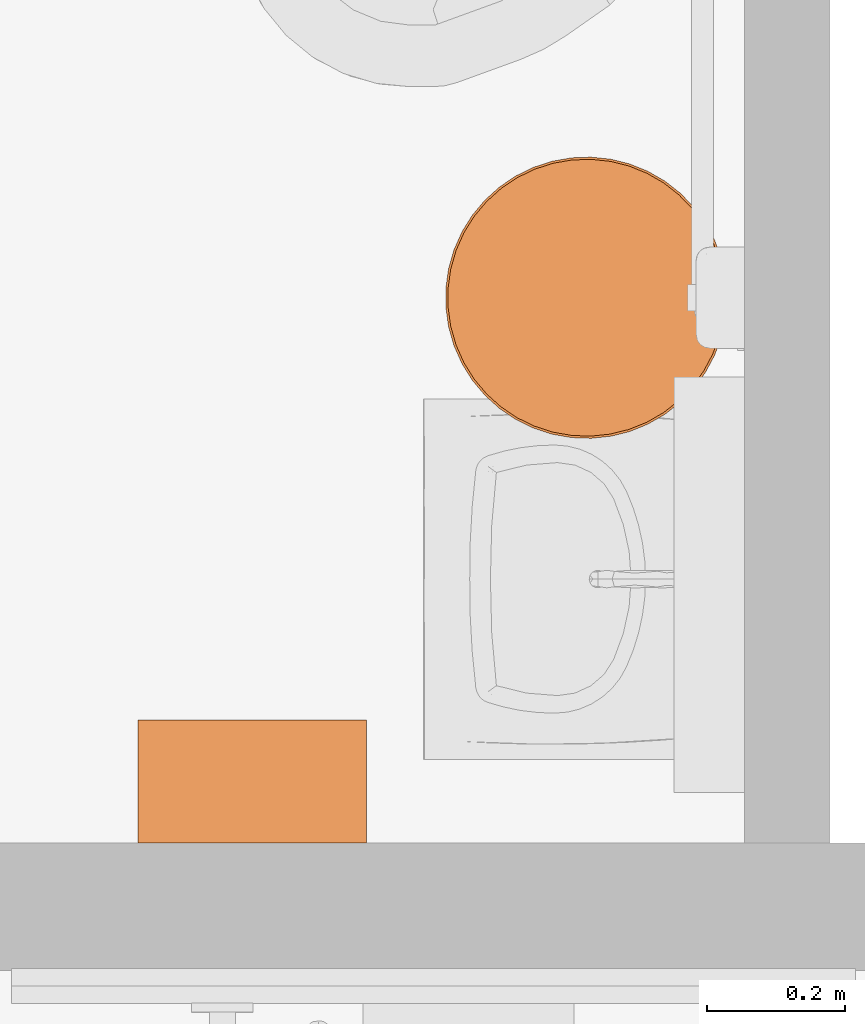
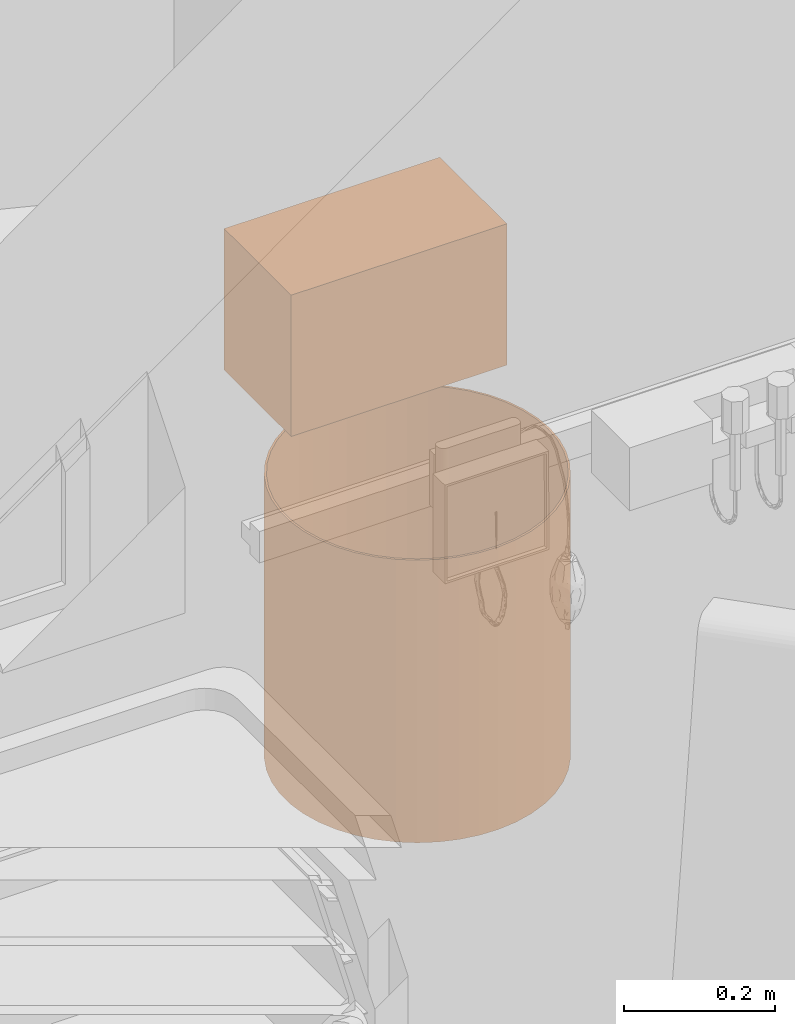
# One storey, part 136 of 142: 2 proxies.
"""IFC2X3 building model written with IfcOpenShell, lengths in feet."""

from ifc_helpers import new_model, entity, si_unit, converted_unit, derived_unit, direction, frame, frame_2d, origin, place, context, subcontext, project, spatial, rectangle, circle, hollow_circle, extrude, source, transform, mapped, type_object, type_shapes, element, save


model = new_model("IFC2X3")

# Units and contexts
model_context = context("Model", 3, precision=0.0001, world=origin(), true_north=direction((6.12303176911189e-17, 1.0)))
body_context = subcontext(model_context, "Body", "Model", "MODEL_VIEW")
ifc_project = project(units=[converted_unit("LENGTHUNIT", "FOOT", entity("IfcRatioMeasure", 0.3048), si_unit("LENGTHUNIT", "METRE"), dimensions=[1, 0, 0, 0, 0, 0, 0]), converted_unit("AREAUNIT", "SQUARE FOOT", entity("IfcRatioMeasure", 0.09290304), si_unit("AREAUNIT", "SQUARE_METRE"), dimensions=[2, 0, 0, 0, 0, 0, 0]), converted_unit("VOLUMEUNIT", "CUBIC FOOT", entity("IfcRatioMeasure", 0.028316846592), si_unit("VOLUMEUNIT", "CUBIC_METRE"), dimensions=[3, 0, 0, 0, 0, 0, 0]), converted_unit("PLANEANGLEUNIT", "DEGREE", entity("IfcRatioMeasure", 0.0174532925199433), si_unit("PLANEANGLEUNIT", "RADIAN"), dimensions=[0, 0, 0, 0, 0, 0, 0]), si_unit("MASSUNIT", "GRAM", prefix="KILO"), derived_unit("MASSDENSITYUNIT", [(si_unit("MASSUNIT", "GRAM", prefix="KILO"), 1), (si_unit("LENGTHUNIT", "METRE"), -3)]), si_unit("TIMEUNIT", "SECOND"), si_unit("FREQUENCYUNIT", "HERTZ"), si_unit("THERMODYNAMICTEMPERATUREUNIT", "DEGREE_CELSIUS"), derived_unit("THERMALTRANSMITTANCEUNIT", [(si_unit("MASSUNIT", "GRAM", prefix="KILO"), 1), (si_unit("THERMODYNAMICTEMPERATUREUNIT", "KELVIN"), -1), (si_unit("TIMEUNIT", "SECOND"), -3)]), derived_unit("VOLUMETRICFLOWRATEUNIT", [(si_unit("LENGTHUNIT", "METRE"), 3), (si_unit("TIMEUNIT", "SECOND"), -1)]), si_unit("ELECTRICCURRENTUNIT", "AMPERE"), si_unit("ELECTRICVOLTAGEUNIT", "VOLT"), si_unit("POWERUNIT", "WATT"), si_unit("FORCEUNIT", "NEWTON"), si_unit("ILLUMINANCEUNIT", "LUX"), si_unit("LUMINOUSFLUXUNIT", "LUMEN"), si_unit("LUMINOUSINTENSITYUNIT", "CANDELA"), derived_unit("USERDEFINED", [(si_unit("MASSUNIT", "GRAM", prefix="KILO"), -1), (si_unit("LENGTHUNIT", "METRE"), -2), (si_unit("TIMEUNIT", "SECOND"), 3), (si_unit("LUMINOUSFLUXUNIT", "LUMEN"), 1)]), derived_unit("LINEARVELOCITYUNIT", [(si_unit("LENGTHUNIT", "METRE"), 1), (si_unit("TIMEUNIT", "SECOND"), -1)]), si_unit("PRESSUREUNIT", "PASCAL"), derived_unit("USERDEFINED", [(si_unit("LENGTHUNIT", "METRE"), -2), (si_unit("MASSUNIT", "GRAM", prefix="KILO"), 1), (si_unit("TIMEUNIT", "SECOND"), -2)])], contexts=[model_context])

# Site, building, storey, space
site_placement = place(None, origin())
site = spatial("IfcSite", under=ifc_project, at=site_placement, Name="Default", CompositionType="ELEMENT")
building_placement = place(site_placement, origin())
building = spatial("IfcBuilding", under=site, at=building_placement, Name="OUTPATIENT / PACT CLINIC (Ch. 265)", CompositionType="ELEMENT")
storey_placement = place(building_placement, origin())
storey = spatial("IfcBuildingStorey", under=building, at=storey_placement, Name="LEVEL 1", CompositionType="ELEMENT", Elevation=0.0)
space_placement = place(storey_placement, origin())
space = spatial("IfcSpace", under=storey, at=space_placement, Name="TNPG1", CompositionType="ELEMENT", InteriorOrExteriorSpace="INTERNAL")

# Proxies
building_element_proxy_type_1 = type_object("IfcBuildingElementProxyType", Name="F2000 - Basket, Wastepaper", PredefinedType="NOTDEFINED")
shared_shape_1 = source(origin(), body_context, "Body", "SweptSolid", [
    extrude(circle(Radius=0.666666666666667, at=frame_2d((0.0, -3.14944602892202e-15), x_axis=(1.0, 0.0))), origin(), (0.0, 0.0, 1.0), 0.0104166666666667),
    extrude(hollow_circle(Radius=0.666666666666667, WallThickness=0.0104166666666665, at=frame_2d((0.0, -3.14944602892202e-15), x_axis=(1.0, 0.0))), frame((0.0, 0.0, 0.0104166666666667)), (0.0, 0.0, 1.0), 1.48958333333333),
])
type_shapes(building_element_proxy_type_1, [shared_shape_1])
proxy_1_placement = place(space_placement, frame((446.004976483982, -879.837164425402, 0.0)))
element("IfcBuildingElementProxy", 1, at=proxy_1_placement, inside=space, type_object=building_element_proxy_type_1, Name="F2000 - Basket, Wastepaper:F2000 - Basket, Wastepaper", ObjectType="F2000 - Basket, Wastepaper", context=body_context, shape_type="MappedRepresentation", body=[
    mapped(shared_shape_1, transform((0.0, 0.0, 0.0), scale=1.0)),
])
building_element_proxy_type_2 = type_object("IfcBuildingElementProxyType", Name="A5080 - Dispenser, Paper Towel", PredefinedType="NOTDEFINED")
shared_shape_2 = source(origin(), body_context, "Body", "SweptSolid", [
    extrude(rectangle(XDim=1.08333333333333, YDim=0.58333333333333, at=frame_2d((0.0, 9.99200722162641e-16), x_axis=(1.0, 0.0))), frame((0.0, 0.291666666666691, 0.0), z_axis=(0.0, 0.0, 1.0), x_axis=(-1.0, 0.0, 0.0)), (0.0, 0.0, 1.0), 0.75),
])
type_shapes(building_element_proxy_type_2, [shared_shape_2])
proxy_2_placement = place(space_placement, frame((444.421643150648, -882.420497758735, 4.0)))
element("IfcBuildingElementProxy", 2, at=proxy_2_placement, inside=space, type_object=building_element_proxy_type_2, Name="A5080 - Dispenser, Paper Towel:A5080 - Dispenser, Paper Towel", ObjectType="A5080 - Dispenser, Paper Towel", context=body_context, shape_type="MappedRepresentation", body=[
    mapped(shared_shape_2, transform((0.0, 0.0, 0.0), scale=1.0)),
])

save(model, "model.ifc")
